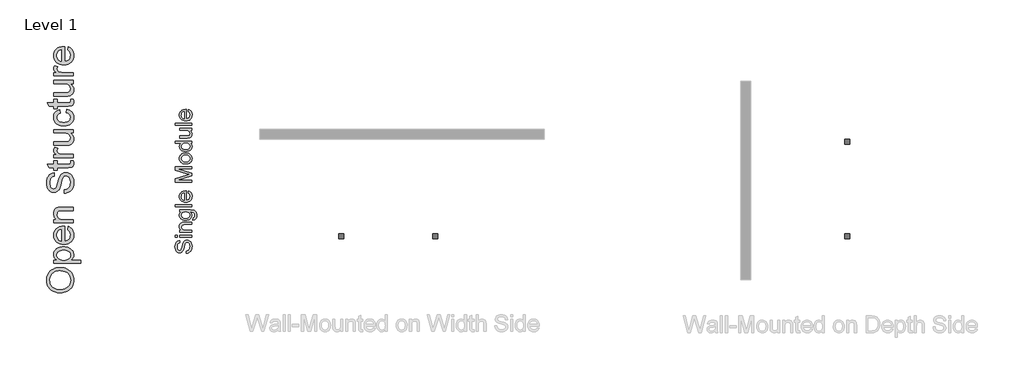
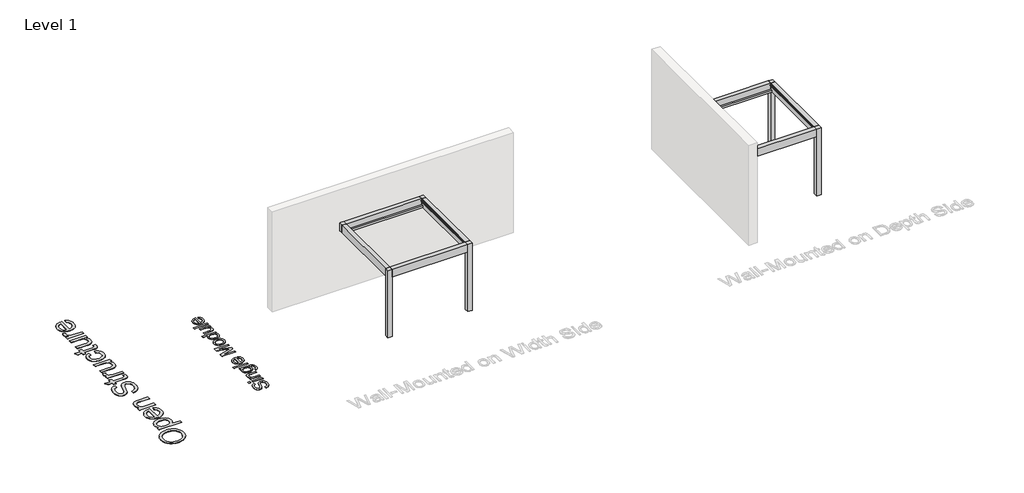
# One storey, part 70 of 80: 4 proxies.
"""IFC4 building model written with IfcOpenShell, lengths in millimetres."""

from ifc_helpers import new_model, si_unit, origin, origin_with_axes, place, context, project, spatial, polyline, outline, extrude, transform, mapped, element, save
from components import generic_models_3c630f52, generic_models_d4e71780

model = new_model("IFC4")

# Units and contexts
model_context = context("Model", 3, world=origin())
ifc_project = project(units=[si_unit("LENGTHUNIT", "METRE", prefix="MILLI")], contexts=[model_context])

# Site, building, storey
site = spatial("IfcSite", under=ifc_project)
building = spatial("IfcBuilding", under=site)
storey = spatial("IfcBuildingStorey", under=building, Name="Level 1", Elevation=0.0)

# Proxies
placement = place(None, origin())
generic_models_shape = generic_models_3c630f52(model_context)
element("IfcBuildingElementProxy", 1, Name="Renson_Amani_Patio_Cover : Renson_Amani_Patio_Cover", ObjectType="Renson_Amani_Patio_Cover : Renson_Amani_Patio_Cover", at=placement, inside=storey, context=model_context, shape_type="MappedRepresentation", body=[
    mapped(generic_models_shape, transform((178253.165057, 67528.5861401, 0.0), x_axis=(1.0, 0.0, 0.0), y_axis=(0.0, 1.0, 0.0), z_axis=(0.0, 0.0, 1.0))),
])
generic_models_2_shape = generic_models_d4e71780(model_context)
element("IfcBuildingElementProxy", 2, Name="Renson_Amani_Patio_Cover : Renson_Amani_Patio_Cover", ObjectType="Renson_Amani_Patio_Cover : Renson_Amani_Patio_Cover", at=placement, inside=storey, context=model_context, shape_type="MappedRepresentation", body=[
    mapped(generic_models_2_shape, transform((190710.3328818, 67528.5861401, 0.0), x_axis=(1.0, 0.0, 0.0), y_axis=(0.0, 1.0, 0.0), z_axis=(0.0, 0.0, 1.0))),
])
element("IfcBuildingElementProxy", 3, Name="500mm Arial", ObjectType="500mm Arial", at=placement, inside=storey, context=model_context, shape_type="SweptSolid", body=[
    extrude(outline(polyline([(172140.3333758, 65583.2954326), (172140.3333758, 65646.0806264), (172175.1748664, 65653.2849821), (172203.1798833, 65666.3141361), (172225.4060871, 65686.6396164), (172242.9111388, 65715.7329508), (172254.2694954, 65751.294877), (172258.0556142, 65791.0261325), (172255.1892003, 65826.0055789), (172246.5899587, 65856.631755), (172232.9783249, 65881.4484612), (172215.0747345, 65898.9994981), (172194.519328, 65909.4381497), (172172.952246, 65912.9177002), (172151.936987, 65910.3118694), (172133.7728135, 65902.494377), (172118.2757845, 65886.6141376), (172105.2619589, 65859.8200656), (172081.2883155, 65768.4013898), (172065.4234045, 65708.3906393), (172050.3249143, 65669.9929561), (172029.2023564, 65638.7383149), (172003.6039009, 65616.5887531), (171974.0813708, 65603.3909866), (171941.186589, 65598.991731), (171904.4137179, 65604.4333189), (171870.1240503, 65620.7580824), (171854.5963644, 65632.8943561), (171841.0613727, 65647.536826), (171819.9694716, 65684.3403539), (171807.139587, 65728.5168502), (171802.8629589, 65777.4144987), (171807.3388565, 65830.389506), (171820.7665493, 65876.7426374), (171842.8701258, 65914.8184239), (171857.0719037, 65930.1315119), (171873.3736746, 65942.9613965), (171910.3764719, 65960.7730165), (171951.9777942, 65967.8547449), (171951.9777942, 65905.069551), (171931.9435539, 65900.8695649), (171914.5151444, 65893.5425818), (171899.6925657, 65883.0886018), (171887.4758177, 65869.5076248), (171877.9262143, 65852.546732), (171871.105069, 65831.9530045), (171865.6481527, 65779.8670453), (171871.0437553, 65726.5548129), (171877.7882585, 65706.1756832), (171887.2305631, 65689.9812112), (171898.5812555, 65677.6418359), (171911.0509223, 65668.8279964), (171924.6395635, 65663.5396928), (171939.3471791, 65661.7769249), (171963.4741066, 65666.7739886), (171982.8798818, 65681.7651799), (171991.5097803, 65695.5300979), (172000.2316493, 65717.2044788), (172017.9512987, 65784.2816293), (172034.7819, 65853.504758), (172049.466523, 65895.3819918), (172072.2445498, 65931.1738443), (172100.3568656, 65956.1438347), (172133.496902, 65970.8131292), (172171.3580907, 65975.7028941), (172210.0623423, 65970.0773652), (172246.4673314, 65953.2007787), (172277.7986146, 65925.7629132), (172301.2817487, 65888.4535476), (172315.9510432, 65843.5872726), (172320.8408081, 65793.4786791), (172315.5678328, 65731.9657439), (172308.9766137, 65705.2904671), (172299.748907, 65681.3359843), (172287.8693842, 65659.9566754), (172273.322717, 65641.0069206), (172256.1089053, 65624.4867197), (172236.2279492, 65610.3960729), (172214.323642, 65599.0453805), (172191.0397774, 65590.745043), (172166.3763553, 65585.4950603), (172140.3333758, 65583.2954326)])), origin_with_axes(), (0.0, 0.0, 1.0), 5.0),
    extrude(outline(polyline([(172312.9926588, 66062.0325356), (171944.129645, 66062.0325356), (171944.129645, 66124.8177295), (172312.9926588, 66124.8177295), (172312.9926588, 66062.0325356)])), origin_with_axes(), (0.0, 0.0, 1.0), 5.0),
    extrude(outline(polyline([(171873.4963019, 66062.0325356), (171810.7111081, 66062.0325356), (171810.7111081, 66124.8177295), (171873.4963019, 66124.8177295), (171873.4963019, 66062.0325356)])), origin_with_axes(), (0.0, 0.0, 1.0), 5.0),
    extrude(outline(polyline([(172312.9926588, 66218.9955202), (171944.129645, 66218.9955202), (171944.129645, 66281.7807141), (171995.6331243, 66281.7807141), (171969.6667868, 66303.5930507), (171951.1194029, 66329.7893144), (171939.9909726, 66360.3695053), (171936.2814958, 66395.3336233), (171939.270537, 66426.2816961), (171948.2376606, 66454.6239381), (171962.0638923, 66478.2603563), (171979.6302575, 66495.0909576), (172000.8907712, 66506.5106279), (172025.7994479, 66513.914253), (172086.4999771, 66517.225191), (172312.9926588, 66517.225191), (172312.9926588, 66454.4399971), (172094.961263, 66454.4399971), (172062.495677, 66452.631244), (172039.4110818, 66447.2049846), (172022.8717204, 66437.1955286), (172010.0418358, 66421.6371859), (172001.8104762, 66401.6949161), (171999.0666896, 66378.5336788), (172000.6071955, 66359.4689608), (172005.228713, 66341.7608077), (172012.9312423, 66325.4092194), (172023.7147833, 66310.414196), (172038.8056093, 66297.8870477), (172059.4299937, 66288.9390846), (172085.5879364, 66283.5703067), (172117.2794374, 66281.7807141), (172312.9926588, 66281.7807141), (172312.9926588, 66218.9955202)])), origin_with_axes(), (0.0, 0.0, 1.0), 5.0),
    extrude(outline(polyline([(172344.3852558, 66587.8585341), (172352.233405, 66650.6437279), (172371.8537781, 66657.5721721), (172385.3427846, 66670.999865), (172395.8274214, 66697.3953981), (172399.3223004, 66731.9456488), (172395.3675689, 66768.795162), (172383.5033746, 66796.2023707), (172364.4961382, 66815.2096071), (172339.1122805, 66826.8592036), (172312.1036107, 66830.2621121), (172265.9037635, 66831.1511602), (172286.5051552, 66810.2585286), (172301.220435, 66786.9440071), (172310.0496029, 66761.2075959), (172312.9926588, 66733.0492948), (172309.5667578, 66698.6255035), (172299.2890545, 66668.3173921), (172282.1595491, 66642.1249605), (172258.1782416, 66620.0482086), (172229.4068038, 66602.5316607), (172197.906908, 66590.0198408), (172163.678554, 66582.5127488), (172126.7217419, 66580.0103848), (172076.0306687, 66584.5016109), (172029.4169542, 66597.9752889), (171989.915625, 66619.9562381), (171973.9702398, 66633.9587466), (171960.5617075, 66649.9692776), (171949.9391148, 66667.7310802), (171942.3515487, 66686.9874033), (171937.799009, 66707.7382471), (171936.2814958, 66729.9836115), (171939.7150611, 66759.3451933), (171950.0157569, 66785.9936453), (171967.1835834, 66809.9289676), (171991.2185404, 66831.1511602), (171944.129645, 66831.1511602), (171944.129645, 66893.936354), (172262.5928255, 66893.936354), (172336.1232393, 66889.6443974), (172363.4729664, 66884.2794517), (172384.5457069, 66876.7685276), (172416.6587394, 66854.588309), (172441.2608478, 66822.383306), (172450.3812556, 66802.6977871), (172456.8958326, 66780.8586258), (172462.1074942, 66730.7193755), (172460.2719163, 66699.9590758), (172454.7651827, 66672.3027804), (172445.5872934, 66647.7504893), (172432.7382483, 66626.3022026), (172416.202719, 66608.9772598), (172395.9653772, 66596.7950009), (172372.0262227, 66589.7554256), (172344.3852558, 66587.8585341)]), holes=[polyline([(172122.4297853, 66642.7955787), (172153.4736608, 66644.4702082), (172180.018646, 66649.4940967), (172202.064741, 66657.8672442), (172219.6119457, 66669.5896507), (172232.9974854, 66683.8412459), (172242.5585852, 66699.8019595), (172248.295245, 66717.4717916), (172250.207465, 66736.8507421), (172248.3067413, 66756.0380874), (172242.6045704, 66773.6236132), (172233.1009522, 66789.6073195), (172219.7958867, 66803.9892062), (172202.4211267, 66815.8725611), (172180.7084247, 66824.3606717), (172154.657781, 66829.4535381), (172124.2691953, 66831.1511602), (172095.1490361, 66829.4037207), (172069.8379884, 66824.1614023), (172048.3360522, 66815.4242049), (172030.6432275, 66803.1921286), (172016.8284922, 66788.4998414), (172006.9608241, 66772.3820115), (172001.0402232, 66754.8386388), (171999.0666896, 66735.8697235), (172001.0095664, 66717.2188727), (172006.8381968, 66700.0165573), (172016.5525807, 66684.2627773), (172030.1527182, 66669.9575327), (172047.5772956, 66658.0741778), (172068.7649993, 66649.5860672), (172093.7158292, 66644.4932008), (172122.4297853, 66642.7955787)])]), origin_with_axes(), (0.0, 0.0, 1.0), 5.0),
    extrude(outline(polyline([(172312.9926588, 66988.1141448), (171810.7111081, 66988.1141448), (171810.7111081, 67050.8993387), (172312.9926588, 67050.8993387), (172312.9926588, 66988.1141448)])), origin_with_axes(), (0.0, 0.0, 1.0), 5.0),
    extrude(outline(polyline([(172203.1185696, 67403.33029), (172210.9667188, 67464.8892106), (172235.6224767, 67455.4507381), (172257.3505071, 67442.7089919), (172276.1508099, 67426.663972), (172292.0233851, 67407.3156783), (172304.6310077, 67384.8633803), (172313.6364523, 67359.5063474), (172319.0397191, 67331.2445795), (172320.8408081, 67300.0780767), (172317.7329716, 67261.1209063), (172308.4094623, 67226.4097072), (172292.8702801, 67195.9444795), (172271.115425, 67169.7252231), (172243.7503696, 67148.6409863), (172211.3805861, 67133.5808171), (172174.0060746, 67124.5447156), (172131.6268352, 67121.5326817), (172087.8105567, 67124.5753724), (172049.1906115, 67133.7034444), (172015.7669994, 67148.9168977), (171987.5397204, 67170.2157324), (171965.1142471, 67196.3660109), (171949.0960519, 67226.1337957), (171939.4851348, 67259.5190868), (171936.2814958, 67296.5218841), (171939.4774706, 67332.3328971), (171949.0653951, 67364.718009), (171965.0452693, 67393.6772198), (171987.4170931, 67419.2105295), (172015.5830584, 67440.0533438), (172048.9453568, 67454.9410683), (172087.5039884, 67463.873703), (172131.2589532, 67466.8512479), (172148.181525, 67466.4833659), (172148.181525, 67184.3178756), (172173.2358217, 67187.9545424), (172195.1784499, 67195.1857228), (172214.0094095, 67206.011417), (172229.7287006, 67220.4316248), (172242.1217253, 67237.6492686), (172250.9738858, 67256.8672707), (172256.2851821, 67278.0856312), (172258.0556142, 67301.30435), (172254.7753331, 67334.7202979), (172244.9344897, 67362.8632706), (172227.9199474, 67385.7332679), (172203.1185696, 67403.33029)]), holes=[polyline([(172085.3963312, 67184.3178756), (172085.3963312, 67404.066054), (172052.2256379, 67395.5741113), (172028.4972492, 67378.927451), (172015.6213794, 67361.8056098), (172006.4243295, 67342.3231925), (172000.9060996, 67320.480199), (171999.0666896, 67296.2766294), (172004.9374731, 67253.9548716), (172012.2759525, 67235.5416113), (172022.5498236, 67218.9600968), (172035.2839056, 67205.0457267), (172050.0030175, 67194.6338999), (172066.7071594, 67187.7246161), (172085.3963312, 67184.3178756)])]), origin_with_axes(), (0.0, 0.0, 1.0), 5.0),
    extrude(outline(polyline([(172312.9926588, 67733.6883217), (171810.7111081, 67733.6883217), (171810.7111081, 67841.723001), (172164.7362148, 67944.4847049), (172238.6804958, 67965.208724), (172158.6048482, 67987.6495257), (171810.7111081, 68088.6944471), (171810.7111081, 68196.7291263), (172312.9926588, 68196.7291263), (172312.9926588, 68133.9439325), (171873.4963019, 68133.9439325), (172312.9926588, 68007.7604081), (172312.9926588, 67922.6570399), (171873.4963019, 67796.4735155), (172312.9926588, 67796.4735155), (172312.9926588, 67733.6883217)])), origin_with_axes(), (0.0, 0.0, 1.0), 5.0),
    extrude(outline(polyline([(172128.5611519, 68283.0587678), (172080.790142, 68286.4540121), (172039.6256796, 68296.6397448), (172005.0677647, 68313.6159661), (171977.1163972, 68337.3826758), (171959.2511278, 68361.3103339), (171946.4902211, 68387.7211955), (171938.8336771, 68416.6152605), (171936.2814958, 68447.992529), (171939.3893322, 68482.6309181), (171948.7128415, 68513.9507051), (171964.2520237, 68541.9518898), (171986.0068788, 68566.6344725), (172013.2416427, 68586.7798438), (172045.2205516, 68601.1693947), (172081.9436053, 68609.8031253), (172123.410804, 68612.6810355), (172186.8397913, 68607.5920012), (172212.8751067, 68601.2307084), (172235.1243032, 68592.3248984), (172254.3423053, 68580.9857024), (172271.2840376, 68567.3242512), (172285.9495001, 68551.3405449), (172298.3386927, 68533.0345836), (172315.2152792, 68492.306981), (172320.8408081, 68447.992529), (172317.7444679, 68412.8483022), (172308.4554476, 68381.2372753), (172292.9737469, 68353.1594484), (172271.299366, 68328.6148216), (172243.8001869, 68308.6840481), (172210.8440915, 68294.4477813), (172172.4310798, 68285.9060212), (172128.5611519, 68283.0587678)]), holes=[polyline([(172128.4385246, 68345.8439617), (172158.892256, 68347.660379), (172185.2609644, 68353.1096311), (172207.5446499, 68362.1917178), (172225.7433123, 68374.9066393), (172239.8799444, 68390.3730115), (172249.9775387, 68407.7094505), (172256.0360954, 68426.9159564), (172258.0556142, 68447.992529), (172256.024599, 68468.9618027), (172249.9315535, 68488.0916665), (172239.7764776, 68505.3821203), (172225.5593713, 68520.8331641), (172207.1806, 68533.5480855), (172184.5405289, 68542.6301723), (172157.639158, 68548.0794243), (172126.4764873, 68549.8958417), (172096.9884461, 68548.067928), (172071.3095164, 68542.584187), (172049.4396982, 68533.4446187), (172031.3789915, 68520.6492231), (172017.2423594, 68505.1406977), (172007.1447651, 68487.8617402), (172001.0862085, 68468.8123507), (171999.0666896, 68447.992529), (172001.0785443, 68426.9159564), (172007.1141083, 68407.7094505), (172017.1733816, 68390.3730115), (172031.2563642, 68374.9066393), (172049.4013772, 68362.1917178), (172071.6467416, 68353.1096311), (172097.9924574, 68347.660379), (172128.4385246, 68345.8439617)])]), origin_with_axes(), (0.0, 0.0, 1.0), 5.0),
    extrude(outline(polyline([(172312.9926588, 68910.9107063), (172253.7636576, 68910.9107063), (172283.1099109, 68892.1257319), (172304.0715205, 68869.3706977), (172316.6484862, 68842.6456035), (172320.8408081, 68811.9504496), (172314.7707551, 68771.3608028), (172296.5605964, 68734.2047213), (172267.4825903, 68702.7508107), (172228.8089956, 68679.2676766), (172182.1033106, 68664.6443673), (172128.9290339, 68659.7699309), (172076.4138791, 68664.2611569), (172028.9877586, 68677.734835), (172007.8575365, 68687.8362614), (171989.3484736, 68700.1756367), (171973.4605699, 68714.7529608), (171960.1938255, 68731.5682336), (171942.2595782, 68769.5367212), (171936.2814958, 68811.7051949), (171940.558124, 68842.4233415), (171953.3880085, 68869.5852955), (171973.0543669, 68892.608577), (171997.8404163, 68910.9107063), (171810.7111081, 68910.9107063), (171810.7111081, 68973.6959001), (172312.9926588, 68973.6959001), (172312.9926588, 68910.9107063)]), holes=[polyline([(172128.6837793, 68722.5551247), (172159.1298465, 68724.3255568), (172185.4755623, 68729.6368531), (172207.7209267, 68738.4890137), (172225.8659396, 68750.8820384), (172239.9489223, 68765.6816245), (172250.0081956, 68781.7534691), (172256.0437596, 68799.0975724), (172258.0556142, 68817.7139342), (172256.1357301, 68836.4184344), (172250.3760776, 68853.6590708), (172240.7766568, 68869.4358434), (172227.3374676, 68883.7487523), (172209.9512112, 68895.6321072), (172188.5105887, 68904.1202178), (172163.0156, 68909.2130841), (172133.4662452, 68910.9107063), (172101.069637, 68909.1824273), (172073.2868821, 68903.9975904), (172050.1179807, 68895.3561957), (172031.5629325, 68883.258243), (172017.3458263, 68868.6311016), (172007.1907503, 68852.4021406), (172001.0977048, 68834.5713602), (171999.0666896, 68815.1387602), (172001.0172306, 68796.1545164), (172006.8688536, 68778.8104132), (172016.6215586, 68763.1064505), (172030.2753455, 68749.0426284), (172048.1291186, 68737.4543455), (172070.4817819, 68729.1770007), (172097.3333355, 68724.2105937), (172128.6837793, 68722.5551247)])]), origin_with_axes(), (0.0, 0.0, 1.0), 5.0),
    extrude(outline(polyline([(172312.9926588, 69303.3181678), (172249.5943283, 69303.3181678), (172280.7646632, 69280.6014546), (172303.0291881, 69254.1446078), (172316.3879031, 69223.9476273), (172320.8408081, 69190.0105133), (172317.7138111, 69159.4303224), (172308.3328202, 69130.9654531), (172294.2306771, 69107.0837802), (172276.9402233, 69090.2531789), (172255.9402927, 69078.9254792), (172230.7097192, 69071.5525108), (172172.3391093, 69067.8736909), (171944.129645, 69067.8736909), (171944.129645, 69130.6588847), (172142.7859224, 69130.6588847), (172206.7973896, 69134.460332), (172228.1498737, 69143.6113966), (172244.3826667, 69159.2923667), (172254.6373773, 69180.4609098), (172258.0556142, 69206.0746937), (172254.5607353, 69233.1600056), (172244.0760984, 69258.497878), (172227.5673939, 69279.3905097), (172206.0003119, 69293.1400993), (172176.4624534, 69300.7736507), (172136.0414192, 69303.3181678), (171944.129645, 69303.3181678), (171944.129645, 69366.1033616), (172312.9926588, 69366.1033616), (172312.9926588, 69303.3181678)])), origin_with_axes(), (0.0, 0.0, 1.0), 5.0),
    extrude(outline(polyline([(172312.9926588, 69452.4330032), (171810.7111081, 69452.4330032), (171810.7111081, 69515.218197), (172312.9926588, 69515.218197), (172312.9926588, 69452.4330032)])), origin_with_axes(), (0.0, 0.0, 1.0), 5.0),
    extrude(outline(polyline([(172203.1185696, 69867.6491484), (172210.9667188, 69929.2080689), (172235.6224767, 69919.7695965), (172257.3505071, 69907.0278503), (172276.1508099, 69890.9828304), (172292.0233851, 69871.6345367), (172304.6310077, 69849.1822387), (172313.6364523, 69823.8252057), (172319.0397191, 69795.5634379), (172320.8408081, 69764.3969351), (172317.7329716, 69725.4397646), (172308.4094623, 69690.7285655), (172292.8702801, 69660.2633378), (172271.115425, 69634.0440815), (172243.7503696, 69612.9598446), (172211.3805861, 69597.8996754), (172174.0060746, 69588.8635739), (172131.6268352, 69585.8515401), (172087.8105567, 69588.8942308), (172049.1906115, 69598.0223028), (172015.7669994, 69613.2357561), (171987.5397204, 69634.5345908), (171965.1142471, 69660.6848693), (171949.0960519, 69690.4526541), (171939.4851348, 69723.8379451), (171936.2814958, 69760.8407425), (171939.4774706, 69796.6517554), (171949.0653951, 69829.0368673), (171965.0452693, 69857.9960781), (171987.4170931, 69883.5293879), (172015.5830584, 69904.3722021), (172048.9453568, 69919.2599266), (172087.5039884, 69928.1925613), (172131.2589532, 69931.1701062), (172148.181525, 69930.8022242), (172148.181525, 69648.6367339), (172173.2358217, 69652.2734007), (172195.1784499, 69659.5045812), (172214.0094095, 69670.3302753), (172229.7287006, 69684.7504831), (172242.1217253, 69701.9681269), (172250.9738858, 69721.1861291), (172256.2851821, 69742.4044896), (172258.0556142, 69765.6232084), (172254.7753331, 69799.0391563), (172244.9344897, 69827.1821289), (172227.9199474, 69850.0521263), (172203.1185696, 69867.6491484)]), holes=[polyline([(172085.3963312, 69648.6367339), (172085.3963312, 69868.3849124), (172052.2256379, 69859.8929697), (172028.4972492, 69843.2463094), (172015.6213794, 69826.1244682), (172006.4243295, 69806.6420509), (172000.9060996, 69784.7990574), (171999.0666896, 69760.5954878), (172004.9374731, 69718.2737299), (172012.2759525, 69699.8604697), (172022.5498236, 69683.2789551), (172035.2839056, 69669.3645851), (172050.0030175, 69658.9527582), (172066.7071594, 69652.0434745), (172085.3963312, 69648.6367339)])]), origin_with_axes(), (0.0, 0.0, 1.0), 5.0),
])
element("IfcBuildingElementProxy", 4, Name="800mm Arial", ObjectType="800mm Arial", at=placement, inside=storey, context=model_context, shape_type="SweptSolid", body=[
    extrude(outline(polyline([(168342.8155936, 64389.7876233), (168294.5889233, 64391.4526098), (168249.0518466, 64396.4475694), (168206.2043636, 64404.772502), (168166.0464741, 64416.4274078), (168128.5781783, 64431.4122865), (168093.7994761, 64449.7271384), (168061.7103676, 64471.3719633), (168032.3108527, 64496.3467613), (168006.0095544, 64523.9532138), (167983.215096, 64553.4930023), (167963.9274773, 64584.9661268), (167948.1466983, 64618.3725873), (167935.8727591, 64653.7123839), (167927.1056597, 64690.9855164), (167921.8454001, 64730.191985), (167920.0919802, 64771.3317896), (167923.3853602, 64825.1114644), (167933.2655, 64876.1832491), (167949.7323998, 64924.5471436), (167972.7860594, 64970.2031479), (168001.7312099, 65011.8705031), (168035.8725821, 65048.2684505), (168075.210176, 65079.3969899), (168119.7439915, 65105.2561213), (168168.4616194, 65125.5774954), (168220.3506502, 65140.0927626), (168275.4110839, 65148.8019229), (168333.6429206, 65151.7049764), (168392.6432125, 65148.6494516), (168448.4477062, 65139.4828774), (168501.0564015, 65124.2052538), (168550.4692985, 65102.8165806), (168595.3812429, 65075.8230627), (168634.4870804, 65043.7309047), (168667.786811, 65006.5401067), (168695.2804347, 64964.2506686), (168716.7971838, 64918.5275769), (168732.1662902, 64871.0358182), (168741.3877541, 64821.7753925), (168744.4615754, 64770.7462998), (168741.0645149, 64716.0274018), (168730.8733336, 64664.2847434), (168713.8880315, 64615.5183247), (168690.1086085, 64569.7281457), (168660.4559912, 64528.1095812), (168625.8511063, 64491.8580064), (168586.2939537, 64460.973421), (168541.7845336, 64435.4558253), (168494.1098093, 64415.4759869), (168445.0567446, 64401.2046738), (168394.6253394, 64392.6418859), (168342.8155936, 64389.7876233)]), holes=[polyline([(168343.7914099, 64489.7112105), (168410.0371378, 64494.7061701), (168468.8422665, 64509.6910489), (168520.206796, 64534.6658469), (168564.1307264, 64569.6305641), (168599.3089034, 64612.133462), (168624.4361727, 64659.7228023), (168639.5125342, 64712.398585), (168644.5379881, 64770.16081), (168639.4637434, 64828.9110491), (168624.2410094, 64882.2089146), (168598.8697861, 64930.0544067), (168563.3500734, 64972.4475253), (168541.9888451, 64991.0413996), (168518.4991175, 65007.1560907), (168465.1341646, 65031.9479231), (168403.2552146, 65046.8230226), (168332.8622676, 65051.7813891), (168287.133077, 65049.6589887), (168244.4045216, 65043.2917874), (168204.6766012, 65032.6797853), (168167.9493159, 65017.8229824), (168134.7044749, 64998.8860477), (168105.4238876, 64976.0336502), (168080.1075539, 64949.2657898), (168058.7554739, 64918.5824666), (168041.8067648, 64884.9351014), (168029.7005441, 64849.2751151), (168022.4368116, 64811.6025078), (168020.0155675, 64771.9172793), (168024.6811891, 64716.1615765), (168038.6780539, 64664.4311159), (168062.0061619, 64616.7258974), (168094.6655131, 64573.045921), (168114.8877808, 64553.5143483), (168138.2296112, 64536.5869852), (168164.6910043, 64522.2638318), (168194.2719601, 64510.5448882), (168226.9724785, 64501.4301542), (168262.7925596, 64494.91963), (168343.7914099, 64489.7112105)])]), origin_with_axes(), (0.0, 0.0, 1.0), 5.0),
    extrude(outline(polyline([(168956.7991984, 65276.6094605), (168144.9200516, 65276.6094605), (168144.9200516, 65376.5330478), (168242.8920063, 65376.5330478), (168194.564705, 65409.1253116), (168175.5789794, 65426.8851679), (168160.045204, 65445.6208405), (168147.9633786, 65465.8690284), (168139.3335034, 65488.1664304), (168134.1555783, 65512.5130467), (168132.4296032, 65538.9088771), (168134.8447485, 65573.7577161), (168142.0901844, 65606.4841547), (168154.1659109, 65637.0881928), (168171.071928, 65665.5698305), (168192.3691183, 65691.306985), (168217.6183646, 65713.6775733), (168246.8196669, 65732.6815953), (168279.9730251, 65748.3190513), (168315.9440528, 65760.5289525), (168353.5983636, 65769.2503105), (168392.9359574, 65774.4831253), (168433.9568344, 65776.2273969), (168477.8136774, 65774.2574678), (168519.4139453, 65768.3476805), (168558.757638, 65758.4980349), (168595.8447556, 65744.708531), (168629.7055806, 65727.1682334), (168659.3703956, 65706.0662063), (168684.8392005, 65681.4024497), (168706.1119955, 65653.1769638), (168722.8899367, 65622.7741877), (168734.8741804, 65591.5785609), (168742.0647266, 65559.5900834), (168744.4615754, 65526.8087552), (168742.8575774, 65503.2244954), (168738.0455833, 65480.8722037), (168730.0255932, 65459.7518801), (168718.7976071, 65439.8635245), (168689.7426773, 65404.7585337), (168653.9058244, 65376.5330478), (168956.7991984, 65376.5330478), (168956.7991984, 65276.6094605)]), holes=[polyline([(168443.1295074, 65376.5330478), (168491.286041, 65379.2348391), (168532.7094421, 65387.3402131), (168567.399711, 65400.8491697), (168595.3568475, 65419.7617091), (168616.8735965, 65442.5287227), (168632.2427029, 65467.6011023), (168641.4641668, 65494.9788479), (168644.5379881, 65524.6619594), (168641.3543875, 65554.7719906), (168631.8035856, 65582.649842), (168615.8855825, 65608.2955136), (168593.6003781, 65631.7090056), (168564.6308323, 65651.2192323), (168528.6598046, 65665.1551086), (168485.687295, 65673.5166344), (168435.7133037, 65676.3038096), (168387.9714921, 65673.5837218), (168346.6212771, 65665.4234581), (168311.6626588, 65651.8230187), (168283.0956372, 65632.7824035), (168260.8958167, 65609.9605002), (168245.0388022, 65585.0161964), (168235.5245934, 65557.9494923), (168232.3531905, 65528.7603878), (168235.7258555, 65499.662766), (168245.8438506, 65472.2850205), (168262.7071757, 65446.6271511), (168286.3158309, 65422.6891579), (168316.3526758, 65402.4958597), (168352.5005702, 65388.0720753), (168394.7595141, 65379.4178047), (168443.1295074, 65376.5330478)])]), origin_with_axes(), (0.0, 0.0, 1.0), 5.0),
    extrude(outline(polyline([(168557.1048492, 66299.6552507), (168569.5952976, 66397.6272054), (168608.8353099, 66382.6057335), (168643.4157994, 66362.3270514), (168673.3367661, 66336.7911591), (168698.5982101, 66305.9980565), (168718.6634324, 66270.264884), (168732.9957341, 66229.9087819), (168741.595115, 66184.9297502), (168744.4615754, 66135.3277888), (168739.5154066, 66073.3268617), (168724.6769002, 66018.0834625), (168699.9460563, 65969.597591), (168665.3228749, 65927.8692472), (168621.7709744, 65894.3133648), (168570.2539736, 65870.3448774), (168510.7718723, 65855.9637849), (168443.3246707, 65851.1700874), (168373.5903996, 65856.0125757), (168312.1261716, 65870.5400406), (168258.9319865, 65894.7524821), (168235.4361601, 65910.4905691), (168214.0078444, 65928.6499002), (168178.3173639, 65970.2684646), (168152.8241635, 66017.6443451), (168137.5282433, 66070.7775417), (168132.4296032, 66129.6680543), (168137.5160456, 66186.6618241), (168152.7753727, 66238.2032203), (168178.2075845, 66284.2922431), (168213.8126811, 66324.9288924), (168258.6392416, 66358.1005471), (168311.735845, 66381.7945862), (168373.1024915, 66396.0110097), (168442.7391809, 66400.7498175), (168469.6717103, 66400.1643277), (168469.6717103, 65951.0936747), (168509.5460031, 65956.881485), (168544.4680283, 65968.3900183), (168574.4377859, 65985.6192745), (168599.4552758, 66008.5692537), (168619.1789624, 66035.9713947), (168633.26731, 66066.5571363), (168641.7203186, 66100.3264785), (168644.5379881, 66137.2794213), (168639.317371, 66190.4614087), (168623.6555196, 66235.2513761), (168611.6651771, 66254.4993522), (168596.5766178, 66271.6493234), (168578.3898419, 66286.7012895), (168557.1048492, 66299.6552507)]), holes=[polyline([(168369.748123, 65951.0936747), (168369.748123, 66300.8262302), (168341.4738462, 66295.690997), (168316.9564622, 66287.3111747), (168296.1959708, 66275.6867633), (168279.192372, 66260.8177627), (168258.7002301, 66233.568093), (168244.0629859, 66202.5615306), (168235.2806393, 66167.7980756), (168232.3531905, 66129.2777278), (168234.6890507, 66094.1422428), (168241.6966314, 66061.9220089), (168253.3759325, 66032.6170262), (168269.7269541, 66006.2272946), (168289.9934385, 65984.0823639), (168313.4191281, 65967.5117836), (168340.004023, 65956.5155539), (168369.748123, 65951.0936747)])]), origin_with_axes(), (0.0, 0.0, 1.0), 5.0),
    extrude(outline(polyline([(168731.971127, 66500.6734048), (168144.9200516, 66500.6734048), (168144.9200516, 66600.5969921), (168226.8886193, 66600.5969921), (168204.7497874, 66617.0821884), (168185.5627998, 66635.3116563), (168169.3276564, 66655.2853959), (168156.0443572, 66677.003407), (168145.7129023, 66700.4656897), (168138.3332917, 66725.6722441), (168132.4296032, 66781.3181676), (168137.1867076, 66830.5724944), (168151.4580207, 66875.679602), (168173.4626779, 66913.2973197), (168201.4198144, 66940.0834767), (168235.2562439, 66958.2580549), (168274.8987804, 66970.0410365), (168312.809243, 66973.9930925), (168371.5045923, 66975.3104445), (168731.971127, 66975.3104445), (168731.971127, 66875.3868572), (168384.970857, 66875.3868572), (168333.3013849, 66872.5081991), (168296.5619019, 66863.872225), (168270.2392576, 66847.9420242), (168249.8203019, 66823.1806861), (168236.7199684, 66791.4422615), (168232.3531905, 66754.5808014), (168234.8049289, 66724.2390139), (168242.1601441, 66696.0562199), (168254.4188362, 66670.0324194), (168271.581005, 66646.1676125), (168295.5982833, 66626.2304661), (168328.4223035, 66611.9896472), (168370.0530656, 66603.4451559), (168420.4905697, 66600.5969921), (168731.971127, 66600.5969921), (168731.971127, 66500.6734048)])), origin_with_axes(), (0.0, 0.0, 1.0), 5.0),
    extrude(outline(polyline([(168457.1812619, 67399.9856904), (168457.1812619, 67499.9092777), (168512.6320221, 67511.3751191), (168536.2772704, 67520.5843852), (168557.2024308, 67532.111215), (168575.8283241, 67546.5410983), (168592.5757711, 67564.4595248), (168607.4447717, 67585.8664945), (168620.4353259, 67610.7620074), (168630.9802406, 67638.2312357), (168638.5123225, 67667.3593518), (168644.5379881, 67730.5922468), (168639.976047, 67786.2625657), (168626.2902236, 67835.004589), (168604.6271021, 67874.5007531), (168591.2340237, 67889.9125515), (168576.1332667, 67902.4334941), (168543.4190258, 67919.0467663), (168509.0946881, 67924.5845237), (168475.648585, 67920.4373045), (168446.7400277, 67907.9956469), (168433.9141424, 67897.5300173), (168422.0762712, 67882.7220052), (168401.3645706, 67840.0788337), (168385.6783238, 67787.3115682), (168363.2101539, 67694.584626), (168337.9609076, 67599.0766074), (168313.9314317, 67537.9661127), (168298.0134286, 67511.2836363), (168280.3145608, 67488.2238778), (168260.8348282, 67468.7868372), (168239.574231, 67452.9725146), (168216.7523277, 67440.7199214), (168192.588677, 67431.9680691), (168167.0832789, 67426.7169577), (168140.2361335, 67424.9665873), (168110.4798357, 67427.1316796), (168081.7115519, 67433.6269568), (168053.9312822, 67444.4524187), (168027.1390264, 67459.6080653), (168002.426479, 67478.9231288), (167980.8853346, 67502.2268414), (167962.5155931, 67529.5192031), (167947.3172545, 67560.8002137), (167935.406197, 67595.0147721), (167926.8982988, 67631.1077769), (167921.7935598, 67669.079228), (167920.0919802, 67708.9291254), (167921.8728449, 67752.4017407), (167927.2154391, 67793.2396522), (167936.1197626, 67831.4428596), (167948.5858156, 67867.0113631), (167964.5038187, 67899.2864866), (167983.7639926, 67927.6095542), (168006.3663373, 67951.9805659), (168032.3108527, 67972.3995216), (168060.8412812, 67988.7078512), (168091.2013653, 68000.7469846), (168123.3911049, 68008.5169217), (168157.4105, 68012.0176626), (168157.4105, 67912.0940753), (168125.525703, 67905.4097338), (168097.7881252, 67893.7487292), (168074.1977666, 67877.1110616), (168054.7546271, 67855.496731), (168039.5562885, 67828.5032131), (168028.7003324, 67795.7279837), (168022.1867587, 67757.1710428), (168020.0155675, 67712.8323905), (168022.1623633, 67667.0788046), (168028.6027508, 67627.9851648), (168039.3367299, 67595.5514711), (168054.3643006, 67569.7777235), (168072.4290996, 67550.1394209), (168092.2747632, 67536.1120618), (168113.9012915, 67527.6956464), (168137.3086846, 67524.8901746), (168157.4470931, 67526.8784002), (168175.7070553, 67532.8430773), (168192.0885712, 67542.7842056), (168206.5916406, 67556.7017854), (168220.3262548, 67578.6088609), (168234.2072414, 67613.1039665), (168262.408332, 67719.8582677), (168289.1944889, 67830.027926), (168312.5652889, 67896.6761781), (168329.6298761, 67927.3107105), (168348.8168638, 67953.6394535), (168370.1262518, 67975.6624073), (168393.5580403, 67993.3795716), (168418.9902522, 68006.9983076), (168446.3009104, 68016.7259762), (168475.4900149, 68022.5625773), (168506.5575658, 68024.508111), (168537.8141811, 68022.2698324), (168568.1559686, 68015.5549966), (168597.5829284, 68004.3636037), (168626.0950603, 67988.6956535), (168652.5884724, 67968.8255944), (168675.9592724, 67945.0278748), (168696.2074602, 67917.3024947), (168713.333036, 67885.6494541), (168726.951772, 67850.9896795), (168736.6794405, 67814.2440976), (168742.5160417, 67775.4127084), (168744.4615754, 67734.495512), (168742.3635704, 67683.3810353), (168736.0695553, 67636.5967435), (168725.5795303, 67594.1426363), (168710.8934953, 67556.018714), (168691.9870548, 67521.99322), (168668.8358135, 67491.834398), (168641.4397714, 67465.5422481), (168609.7989284, 67443.1167701), (168574.9378918, 67425.0519712), (168537.8812684, 67411.8418583), (168498.6290585, 67403.4864314), (168457.1812619, 67399.9856904)])), origin_with_axes(), (0.0, 0.0, 1.0), 5.0),
    extrude(outline(polyline([(168648.6364165, 68374.2406665), (168734.8985758, 68386.731115), (168742.0708255, 68347.1617647), (168744.4615754, 68311.9835877), (168740.3143562, 68264.0222175), (168727.8726986, 68228.2585507), (168708.6979086, 68202.984909), (168684.3512924, 68186.4936139), (168642.5375647, 68177.4185224), (168570.9614404, 68174.393492), (168244.8436389, 68174.393492), (168244.8436389, 68099.4508015), (168144.9200516, 68099.4508015), (168144.9200516, 68174.393492), (168002.2557112, 68174.393492), (167943.511571, 68274.3170793), (168144.9200516, 68274.3170793), (168144.9200516, 68374.2406665), (168244.8436389, 68374.2406665), (168244.8436389, 68274.3170793), (168568.0339916, 68274.3170793), (168600.9190003, 68275.6344312), (168619.5570913, 68279.5864872), (168629.8763484, 68286.4903874), (168637.8048557, 68296.6632721), (168642.854705, 68311.0809577), (168644.5379881, 68330.7192604), (168648.6364165, 68374.2406665)])), origin_with_axes(), (0.0, 0.0, 1.0), 5.0),
    extrude(outline(polyline([(168731.971127, 68474.1642538), (168144.9200516, 68474.1642538), (168144.9200516, 68561.5973927), (168231.7677007, 68561.5973927), (168181.4155806, 68593.8969117), (168163.9972599, 68609.0952503), (168151.7507656, 68623.6593083), (168137.2598938, 68653.5192865), (168132.4296032, 68686.1115503), (168134.3568404, 68710.8972839), (168140.1385518, 68735.8781807), (168149.7747376, 68761.0542408), (168163.2653977, 68786.4254641), (168252.8453324, 68753.0525473), (168237.476226, 68717.9231611), (168232.3531905, 68682.793775), (168237.2810627, 68652.9581921), (168252.0646794, 68626.2940122), (168275.5818518, 68604.7528678), (168306.7103912, 68590.2863914), (168362.5270825, 68578.1374787), (168423.4180185, 68574.0878411), (168731.971127, 68574.0878411), (168731.971127, 68474.1642538)])), origin_with_axes(), (0.0, 0.0, 1.0), 5.0),
    extrude(outline(polyline([(168731.971127, 69223.5911585), (168631.0717234, 69223.5911585), (168657.6474699, 69206.2582218), (168680.6797836, 69187.4371653), (168700.1686644, 69167.1279889), (168716.1141124, 69145.3306927), (168728.5161274, 69122.0452767), (168737.3747096, 69097.2717408), (168742.6898589, 69071.0100851), (168744.4615754, 69043.2603096), (168739.4849123, 68994.5914725), (168724.5549232, 68949.2892016), (168702.1111487, 68911.2811574), (168674.5931296, 68884.4950005), (168641.1714219, 68866.4667947), (168601.0165819, 68854.7326039), (168563.1549101, 68850.3414306), (168508.1188718, 68848.8777062), (168144.9200516, 68848.8777062), (168144.9200516, 68948.8012935), (168461.084527, 68948.8012935), (168524.3174221, 68950.3138087), (168562.9597469, 68954.8513544), (168580.9696561, 68960.834328), (168596.9425489, 68969.4154124), (168610.8784252, 68980.5946077), (168622.777285, 68994.3719139), (168632.2975926, 69010.3326089), (168639.0978123, 69028.061971), (168644.5379881, 69068.8266962), (168638.9758353, 69111.9333805), (168622.2893768, 69152.2589883), (168610.1587607, 69170.3054907), (168596.0155234, 69185.5099281), (168579.8596651, 69197.8723007), (168561.6911857, 69207.3926083), (168514.6812363, 69219.541521), (168450.3505479, 69223.5911585), (168144.9200516, 69223.5911585), (168144.9200516, 69323.5147458), (168731.971127, 69323.5147458), (168731.971127, 69223.5911585)])), origin_with_axes(), (0.0, 0.0, 1.0), 5.0),
    extrude(outline(polyline([(168519.633504, 69835.6231307), (168532.1239524, 69935.546718), (168579.2741754, 69924.6785642), (168620.9964203, 69907.6871631), (168657.2906871, 69884.572515), (168688.1569759, 69855.3346196), (168712.7902382, 69821.2054451), (168730.3854255, 69783.4169596), (168740.9425379, 69741.969163), (168744.4615754, 69696.8620554), (168739.5519997, 69640.8197065), (168724.8232727, 69590.5712669), (168700.2753943, 69546.1167363), (168665.9083647, 69507.456115), (168622.3686619, 69476.1629066), (168570.3027644, 69453.8106149), (168509.7106721, 69440.3992399), (168440.5923851, 69435.9287815), (168394.6497348, 69437.8377221), (168351.6711264, 69443.5645439), (168311.65656, 69453.109247), (168274.6060355, 69466.4718312), (168241.2636129, 69483.7437794), (168212.3733521, 69505.0165743), (168187.9352531, 69530.290216), (168167.9493159, 69559.5647045), (168152.4094416, 69591.5165889), (168141.3095314, 69624.8224184), (168134.6495852, 69659.4821929), (168132.4296032, 69695.4959126), (168135.4790291, 69739.8284661), (168144.6273067, 69779.9284164), (168159.8744361, 69815.7957636), (168181.2204173, 69847.4305077), (168208.1773421, 69874.2959497), (168240.2573024, 69895.8553907), (168277.4602981, 69912.1088307), (168319.7863294, 69923.0562696), (168332.2767778, 69823.1326823), (168308.9364721, 69815.3322509), (168288.6821854, 69805.0068949), (168271.5139177, 69792.1566142), (168257.4316689, 69776.7814089), (168246.4598346, 69759.2716055), (168238.6228101, 69740.0175305), (168233.9205954, 69719.0191838), (168232.3531905, 69696.2765656), (168235.4392095, 69662.3242578), (168244.6972665, 69631.7019231), (168260.1273614, 69604.4095615), (168281.7294944, 69580.4471729), (168310.0037711, 69560.9369461), (168345.4502976, 69547.0010699), (168388.0690737, 69538.6395441), (168437.8600995, 69535.8523688), (168488.4012841, 69538.5785556), (168531.5140672, 69546.7571158), (168567.1984489, 69560.3880495), (168595.4544291, 69579.4713566), (168616.9284861, 69602.9580348), (168632.2670983, 69629.7990814), (168641.4702656, 69659.9944965), (168644.5379881, 69693.54428), (168642.6229486, 69720.5804899), (168636.8778303, 69745.2869384), (168627.302633, 69767.6636255), (168613.8973568, 69787.7105513), (168596.5156293, 69804.8666213), (168575.011078, 69818.5707412), (168549.3837029, 69828.822911), (168519.633504, 69835.6231307)])), origin_with_axes(), (0.0, 0.0, 1.0), 5.0),
    extrude(outline(polyline([(168648.6364165, 70235.3174799), (168734.8985758, 70247.8079283), (168742.0708255, 70208.238578), (168744.4615754, 70173.0604011), (168740.3143562, 70125.0990308), (168727.8726986, 70089.3353641), (168708.6979086, 70064.0617224), (168684.3512924, 70047.5704272), (168642.5375647, 70038.4953358), (168570.9614404, 70035.4703053), (168244.8436389, 70035.4703053), (168244.8436389, 69960.5276148), (168144.9200516, 69960.5276148), (168144.9200516, 70035.4703053), (168002.2557112, 70035.4703053), (167943.511571, 70135.3938926), (168144.9200516, 70135.3938926), (168144.9200516, 70235.3174799), (168244.8436389, 70235.3174799), (168244.8436389, 70135.3938926), (168568.0339916, 70135.3938926), (168600.9190003, 70136.7112446), (168619.5570913, 70140.6633005), (168629.8763484, 70147.5672007), (168637.8048557, 70157.7400854), (168642.854705, 70172.157771), (168644.5379881, 70191.7960737), (168648.6364165, 70235.3174799)])), origin_with_axes(), (0.0, 0.0, 1.0), 5.0),
    extrude(outline(polyline([(168731.971127, 70709.9545195), (168631.0717234, 70709.9545195), (168657.6474699, 70692.6215828), (168680.6797836, 70673.8005263), (168700.1686644, 70653.4913499), (168716.1141124, 70631.6940537), (168728.5161274, 70608.4086377), (168737.3747096, 70583.6351018), (168742.6898589, 70557.3734461), (168744.4615754, 70529.6236706), (168739.4849123, 70480.9548335), (168724.5549232, 70435.6525626), (168702.1111487, 70397.6445184), (168674.5931296, 70370.8583615), (168641.1714219, 70352.8301557), (168601.0165819, 70341.0959649), (168563.1549101, 70336.7047916), (168508.1188718, 70335.2410672), (168144.9200516, 70335.2410672), (168144.9200516, 70435.1646545), (168461.084527, 70435.1646545), (168524.3174221, 70436.6771697), (168562.9597469, 70441.2147154), (168580.9696561, 70447.197689), (168596.9425489, 70455.7787734), (168610.8784252, 70466.9579687), (168622.777285, 70480.7352748), (168632.2975926, 70496.6959699), (168639.0978123, 70514.425332), (168644.5379881, 70555.1900572), (168638.9758353, 70598.2967414), (168622.2893768, 70638.6223493), (168610.1587607, 70656.6688517), (168596.0155234, 70671.8732891), (168579.8596651, 70684.2356616), (168561.6911857, 70693.7559692), (168514.6812363, 70705.9048819), (168450.3505479, 70709.9545195), (168144.9200516, 70709.9545195), (168144.9200516, 70809.8781068), (168731.971127, 70809.8781068), (168731.971127, 70709.9545195)])), origin_with_axes(), (0.0, 0.0, 1.0), 5.0),
    extrude(outline(polyline([(168731.971127, 70947.2730393), (168144.9200516, 70947.2730393), (168144.9200516, 71034.7061782), (168231.7677007, 71034.7061782), (168181.4155806, 71067.0056972), (168163.9972599, 71082.2040358), (168151.7507656, 71096.7680938), (168137.2598938, 71126.628072), (168132.4296032, 71159.2203358), (168134.3568404, 71184.0060694), (168140.1385518, 71208.9869662), (168149.7747376, 71234.1630263), (168163.2653977, 71259.5342496), (168252.8453324, 71226.1613328), (168237.476226, 71191.0319466), (168232.3531905, 71155.9025605), (168237.2810627, 71126.0669776), (168252.0646794, 71099.4027977), (168275.5818518, 71077.8616533), (168306.7103912, 71063.3951769), (168362.5270825, 71051.2462642), (168423.4180185, 71047.1966266), (168731.971127, 71047.1966266), (168731.971127, 70947.2730393)])), origin_with_axes(), (0.0, 0.0, 1.0), 5.0),
    extrude(outline(polyline([(168557.1048492, 71733.0003097), (168569.5952976, 71830.9722645), (168608.8353099, 71815.9507926), (168643.4157994, 71795.6721105), (168673.3367661, 71770.1362181), (168698.5982101, 71739.3431156), (168718.6634324, 71703.6099431), (168732.9957341, 71663.253841), (168741.595115, 71618.2748092), (168744.4615754, 71568.6728478), (168739.5154066, 71506.6719208), (168724.6769002, 71451.4285215), (168699.9460563, 71402.94265), (168665.3228749, 71361.2143062), (168621.7709744, 71327.6584238), (168570.2539736, 71303.6899364), (168510.7718723, 71289.3088439), (168443.3246707, 71284.5151465), (168373.5903996, 71289.3576348), (168312.1261716, 71303.8850997), (168258.9319865, 71328.0975412), (168235.4361601, 71343.8356281), (168214.0078444, 71361.9949593), (168178.3173639, 71403.6135237), (168152.8241635, 71450.9894042), (168137.5282433, 71504.1226008), (168132.4296032, 71563.0131134), (168137.5160456, 71620.0068831), (168152.7753727, 71671.5482794), (168178.2075845, 71717.6373021), (168213.8126811, 71758.2739514), (168258.6392416, 71791.4456062), (168311.735845, 71815.1396453), (168373.1024915, 71829.3560687), (168442.7391809, 71834.0948766), (168469.6717103, 71833.5093868), (168469.6717103, 71384.4387337), (168509.5460031, 71390.2265441), (168544.4680283, 71401.7350773), (168574.4377859, 71418.9643336), (168599.4552758, 71441.9143128), (168619.1789624, 71469.3164537), (168633.26731, 71499.9021953), (168641.7203186, 71533.6715375), (168644.5379881, 71570.6244804), (168639.317371, 71623.8064678), (168623.6555196, 71668.5964351), (168611.6651771, 71687.8444113), (168596.5766178, 71704.9943824), (168578.3898419, 71720.0463486), (168557.1048492, 71733.0003097)]), holes=[polyline([(168369.748123, 71384.4387337), (168369.748123, 71734.1712893), (168341.4738462, 71729.0360561), (168316.9564622, 71720.6562338), (168296.1959708, 71709.0318223), (168279.192372, 71694.1628217), (168258.7002301, 71666.913152), (168244.0629859, 71635.9065897), (168235.2806393, 71601.1431346), (168232.3531905, 71562.6227869), (168234.6890507, 71527.4873019), (168241.6966314, 71495.267068), (168253.3759325, 71465.9620853), (168269.7269541, 71439.5723537), (168289.9934385, 71417.4274229), (168313.4191281, 71400.8568427), (168340.004023, 71389.860613), (168369.748123, 71384.4387337)])]), origin_with_axes(), (0.0, 0.0, 1.0), 5.0),
])

save(model, "model.ifc")
